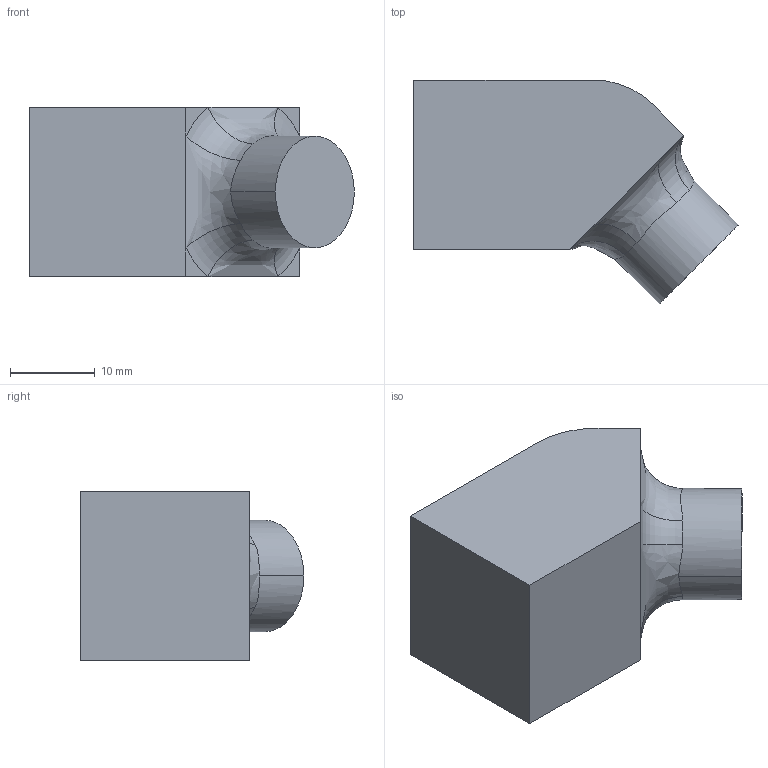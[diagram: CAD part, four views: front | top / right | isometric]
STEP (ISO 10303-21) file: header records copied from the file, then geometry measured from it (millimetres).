
FILE_DESCRIPTION (( 'STEP AP214' ), '1' );
FILE_NAME ('BR84-08.1151-135.STEP', '2020-06-23T08:44:13', ( '' ), ( '' ), 'SwSTEP 2.0', 'SolidWorks 2018', '' );
FILE_SCHEMA (( 'AUTOMOTIVE_DESIGN' ));
Length unit declared in the file: millimetre
Products named in the file (1): BR84-08.1151-135
Bounding box: 38.29 x 26.41 x 20 mm (x, y, z)
Volume: 12333 mm3; surface area: 3303.2 mm2
Topology: 1 solids, 1 shells, 22 faces, 52 edges, 32 vertices
Faces by surface type: plane 11, bspline 4, torus 4, cylinder 3
Entity records: 928 total; most frequent: CARTESIAN_POINT 397, DIRECTION 104, ORIENTED_EDGE 104, EDGE_CURVE 52, AXIS2_PLACEMENT_3D 39, VERTEX_POINT 32, VECTOR 26, LINE 26
